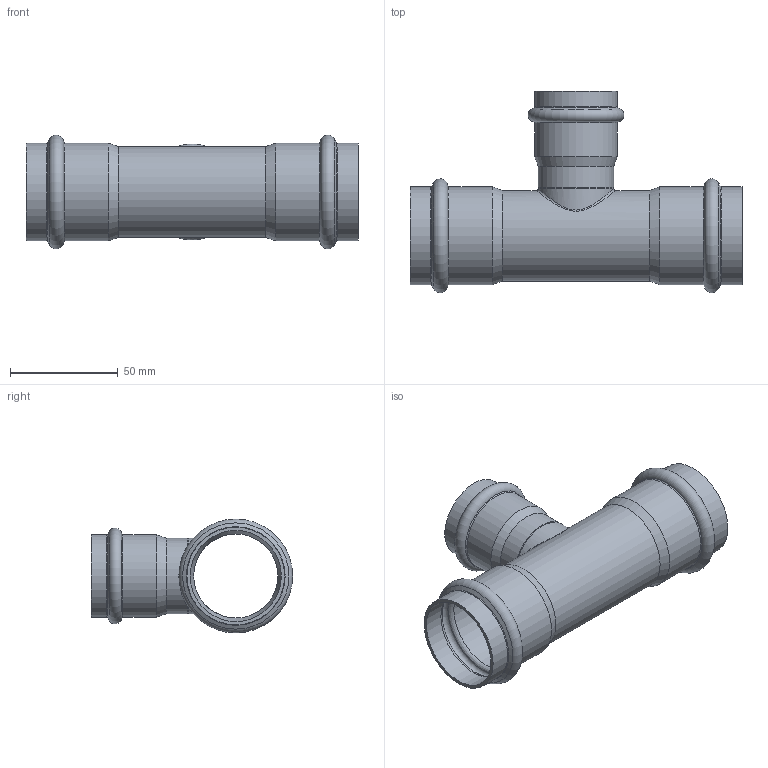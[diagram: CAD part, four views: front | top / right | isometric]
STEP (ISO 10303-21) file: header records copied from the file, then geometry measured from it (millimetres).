
FILE_DESCRIPTION((''),'2;1');
FILE_NAME('G:\Technics\CAD\Bauteile\042\69130423542(2).stp','2008-03-04T14:01:53',('herberg'),(''),'Autodesk Inventor 2008','Autodesk Inventor 2008','');
FILE_SCHEMA(('AUTOMOTIVE_DESIGN { 1 0 10303 214 1 1 1 1 }'));
Length unit declared in the file: millimetre
Products named in the file (3): 69130423542(2); LM_69130423542(2); 6924335HM(1)
Assembly tree (2 placements, depth 2):
  69130423542(2)
    LM_69130423542(2)
    6924335HM(1)
Bounding box: 154 x 93.4 x 52.8 mm (x, y, z)
Volume: 40608.5 mm3; surface area: 55038.7 mm2
Topology: 2 solids, 2 shells, 55 faces, 115 edges, 64 vertices
Faces by surface type: cylinder 18, bspline 13, cone 12, torus 7, plane 5
Full cylindrical faces by diameter (mm): 32 x2, 35 x2, 35.25 x2, 38.25 x2, 39 x1, 42 x1, 42.3 x4, 45.3 x4
Entity records: 3039 total; most frequent: CARTESIAN_POINT 2051, DIRECTION 200, ORIENTED_EDGE 116, EDGE_LOOP 110, AXIS2_PLACEMENT_3D 100, EDGE_CURVE 58, VERTEX_POINT 56, FACE_OUTER_BOUND 55
